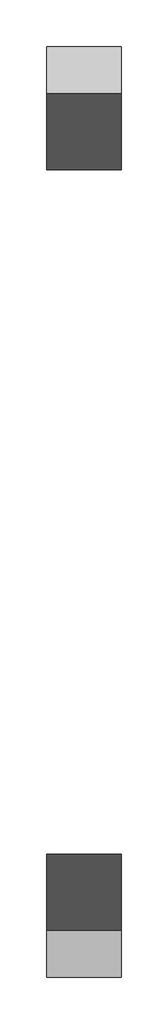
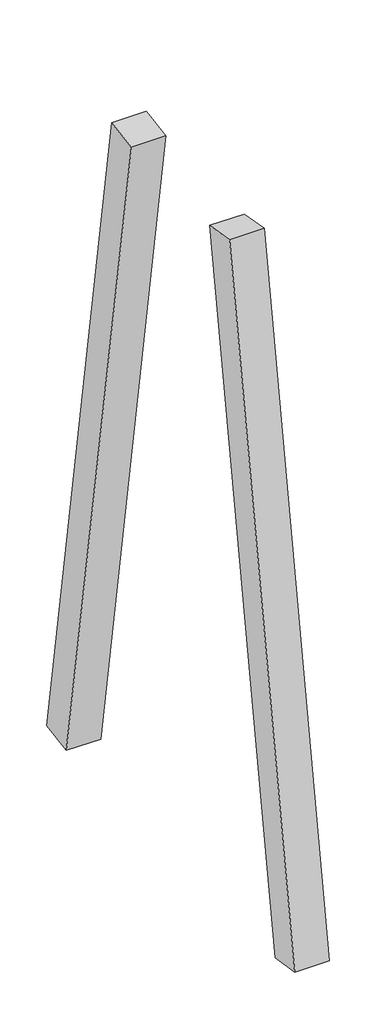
# One storey: 2 members.
"""IFC4 building model written with IfcOpenShell, lengths in millimetres."""

from ifc_helpers import new_model, si_unit, origin, place, context, project, spatial, transform, mapped, element, save
from components import member_30_x_60cm_b8fe3b9b, member_30_x_60cm_49b1b2a9

model = new_model("IFC4")

# Units and contexts
model_context = context("Model", 3, world=origin())
ifc_project = project(units=[si_unit("LENGTHUNIT", "METRE", prefix="MILLI")], contexts=[model_context])

# Site, building, storey
site = spatial("IfcSite", under=ifc_project)
building = spatial("IfcBuilding", under=site)
storey = spatial("IfcBuildingStorey", under=building, Name="GFL", Elevation=700.0)

# Members
placement = place(None, origin())
member_30_x_60cm_shape = member_30_x_60cm_b8fe3b9b(model_context)
element("IfcMember", 1, ObjectType="混凝土樑-矩形 : 30 x 60cm", at=placement, inside=storey, context=model_context, shape_type="MappedRepresentation", body=[
    mapped(member_30_x_60cm_shape, transform((-8057.6682319, -2347.8031981, 3750.0), x_axis=(0.0, -0.1576849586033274, 0.9874894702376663), y_axis=(-1.0, 0.0, 0.0), z_axis=(0.0, -0.9874894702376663, -0.1576849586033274))),
])
member_30_x_60cm_2_shape = member_30_x_60cm_49b1b2a9(model_context)
element("IfcMember", 2, ObjectType="混凝土樑-矩形 : 30 x 60cm", at=placement, inside=storey, context=model_context, shape_type="MappedRepresentation", body=[
    mapped(member_30_x_60cm_2_shape, transform((-8057.6682319, -4802.8918133, 3750.0), x_axis=(0.0, 0.1576849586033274, 0.9874894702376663), y_axis=(-1.0, 0.0, 0.0), z_axis=(0.0, -0.9874894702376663, 0.1576849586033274))),
])

save(model, "model.ifc")
